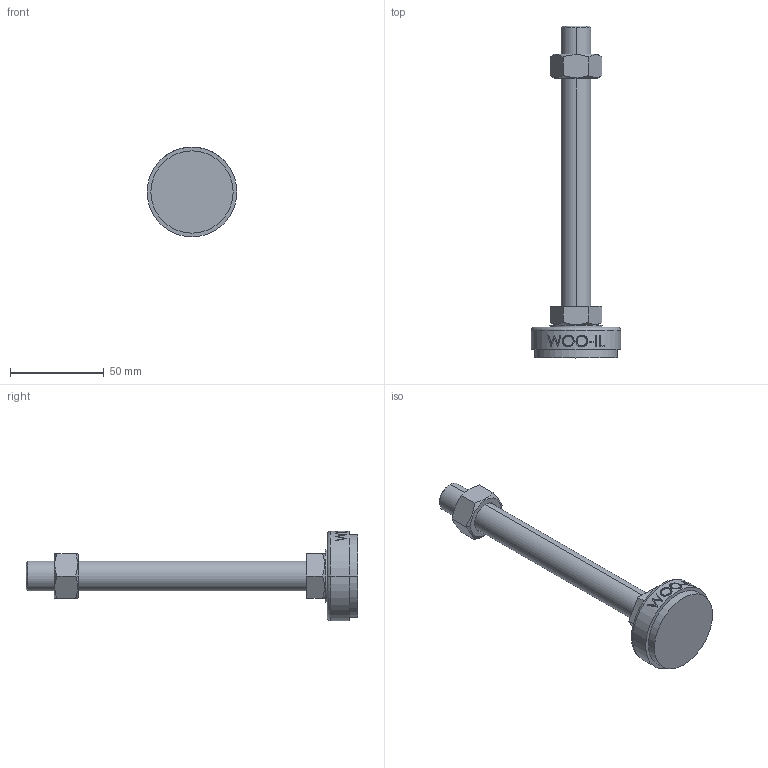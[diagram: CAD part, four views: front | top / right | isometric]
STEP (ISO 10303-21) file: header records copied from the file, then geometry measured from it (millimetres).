
FILE_DESCRIPTION (( 'STEP AP214' ), '1' );
FILE_NAME ('NS48-M16-150.step', '2021-01-11T05:44:02', ( '' ), ( '' ), 'SwSTEP 2.0', 'SolidWorks 2019', '' );
FILE_SCHEMA (( 'AUTOMOTIVE_DESIGN' ));
Length unit declared in the file: millimetre
Products named in the file (2): NS48-M16-150
Bounding box: 48 x 177.5 x 48 mm (x, y, z)
Volume: 67895.8 mm3; surface area: 17535.9 mm2
Topology: 3 solids, 3 shells, 96 faces, 223 edges, 144 vertices
Faces by surface type: plane 48, cylinder 18, bspline 16, cone 12, torus 2
Entity records: 4250 total; most frequent: CARTESIAN_POINT 2125, ORIENTED_EDGE 446, DIRECTION 381, EDGE_CURVE 223, VERTEX_POINT 144, AXIS2_PLACEMENT_3D 142, EDGE_LOOP 109, LINE 97
